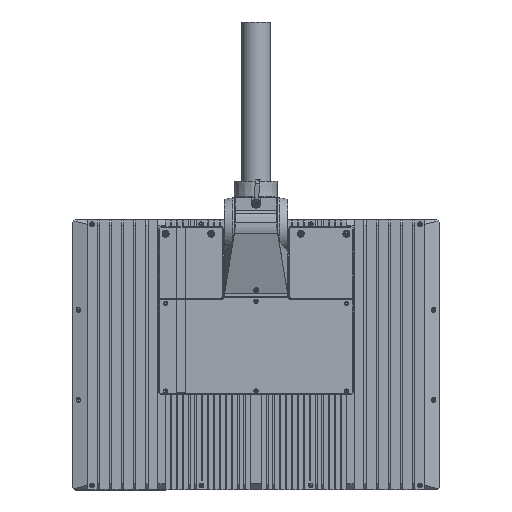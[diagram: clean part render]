
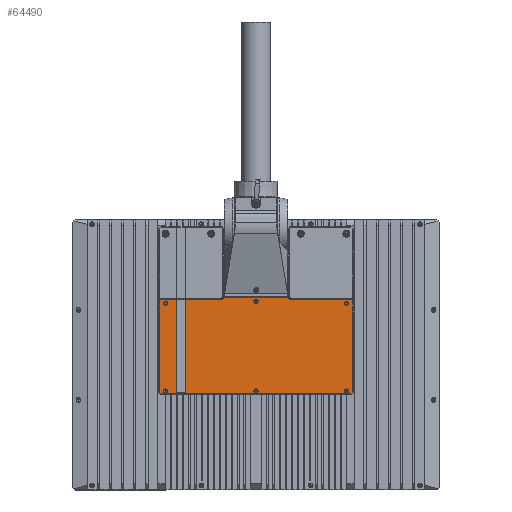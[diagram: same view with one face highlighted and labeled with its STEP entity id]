
A CAD part, top view. The second image highlights one B-rep face of the part: STEP entity #64490.
In plain terms, the highlighted planar face has unit normal (0, 0, 1).
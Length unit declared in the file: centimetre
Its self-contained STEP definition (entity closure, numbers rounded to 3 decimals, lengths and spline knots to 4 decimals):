
#45273=CARTESIAN_POINT('',(-11.75,9.13,12.79));
#45274=VERTEX_POINT('',#45273);
#45275=CARTESIAN_POINT('',(-11.75,-6.15,12.79));
#45276=VERTEX_POINT('',#45275);
#45277=CARTESIAN_POINT('',(-11.75,9.13,12.79));
#45278=DIRECTION('',(0.,-1.0,0.));
#45279=VECTOR('',#45278,15.28);
#45280=LINE('',#45277,#45279);
#45281=EDGE_CURVE('',#45274,#45276,#45280,.T.);
#45413=CARTESIAN_POINT('',(-14.7,8.55,12.79));
#45414=VERTEX_POINT('',#45413);
#45415=CARTESIAN_POINT('',(-15.05,8.55,12.79));
#45416=DIRECTION('',(0.,0.,-1.0));
#45417=DIRECTION('',(1.0,0.,0.));
#45418=AXIS2_PLACEMENT_3D('',#45415,#45416,#45417);
#45419=CIRCLE('',#45418,0.35);
#45420=EDGE_CURVE('',#45414,#45414,#45419,.T.);
#64152=CARTESIAN_POINT('',(0.35,8.9,12.79));
#64153=VERTEX_POINT('',#64152);
#64154=CARTESIAN_POINT('',(0.,8.9,12.79));
#64155=DIRECTION('',(0.,0.,-1.0));
#64156=DIRECTION('',(1.0,0.,0.));
#64157=AXIS2_PLACEMENT_3D('',#64154,#64155,#64156);
#64158=CIRCLE('',#64157,0.35);
#64159=EDGE_CURVE('',#64153,#64153,#64158,.T.);
#64180=CARTESIAN_POINT('',(-14.7,-6.05,12.79));
#64181=VERTEX_POINT('',#64180);
#64182=CARTESIAN_POINT('',(-15.05,-6.05,12.79));
#64183=DIRECTION('',(0.,0.,-1.0));
#64184=DIRECTION('',(1.0,0.,0.));
#64185=AXIS2_PLACEMENT_3D('',#64182,#64183,#64184);
#64186=CIRCLE('',#64185,0.35);
#64187=EDGE_CURVE('',#64181,#64181,#64186,.T.);
#64208=CARTESIAN_POINT('',(0.35,-6.05,12.79));
#64209=VERTEX_POINT('',#64208);
#64210=CARTESIAN_POINT('',(0.,-6.05,12.79));
#64211=DIRECTION('',(0.,0.,-1.0));
#64212=DIRECTION('',(1.0,0.,0.));
#64213=AXIS2_PLACEMENT_3D('',#64210,#64211,#64212);
#64214=CIRCLE('',#64213,0.35);
#64215=EDGE_CURVE('',#64209,#64209,#64214,.T.);
#64269=CARTESIAN_POINT('',(-16.05,9.13,12.79));
#64270=VERTEX_POINT('',#64269);
#64291=CARTESIAN_POINT('',(-13.25,9.13,12.79));
#64292=VERTEX_POINT('',#64291);
#64301=CARTESIAN_POINT('',(-16.05,9.13,12.79));
#64302=DIRECTION('',(1.0,0.,0.0));
#64303=VECTOR('',#64302,2.8);
#64304=LINE('',#64301,#64303);
#64305=EDGE_CURVE('',#64270,#64292,#64304,.T.);
#64325=CARTESIAN_POINT('',(-13.25,-6.15,12.79));
#64326=VERTEX_POINT('',#64325);
#64327=CARTESIAN_POINT('',(-13.25,-6.15,12.79));
#64328=DIRECTION('',(0.,1.0,0.));
#64329=VECTOR('',#64328,15.28);
#64330=LINE('',#64327,#64329);
#64331=EDGE_CURVE('',#64326,#64292,#64330,.T.);
#64342=CARTESIAN_POINT('',(0.,1.25,12.79));
#64343=DIRECTION('',(0.0,0.0,-1.0));
#64344=DIRECTION('',(-1.0,0.,0.0));
#64345=AXIS2_PLACEMENT_3D('',#64342,#64343,#64344);
#64346=PLANE('',#64345);
#64347=CARTESIAN_POINT('',(-5.9538,9.13,12.79));
#64348=VERTEX_POINT('',#64347);
#64349=CARTESIAN_POINT('',(-11.75,9.13,12.79));
#64350=DIRECTION('',(1.0,0.,0.0));
#64351=VECTOR('',#64350,5.7962);
#64352=LINE('',#64349,#64351);
#64353=EDGE_CURVE('',#45274,#64348,#64352,.T.);
#64354=ORIENTED_EDGE('',*,*,#64353,.F.);
#64355=ORIENTED_EDGE('',*,*,#45281,.T.);
#64356=CARTESIAN_POINT('',(-11.85,-6.25,12.79));
#64357=VERTEX_POINT('',#64356);
#64358=CARTESIAN_POINT('',(-11.85,-6.15,12.79));
#64359=DIRECTION('',(0.,0.,-1.0));
#64360=DIRECTION('',(0.,1.0,0.));
#64361=AXIS2_PLACEMENT_3D('',#64358,#64359,#64360);
#64362=CIRCLE('',#64361,0.1);
#64363=EDGE_CURVE('',#45276,#64357,#64362,.T.);
#64364=ORIENTED_EDGE('',*,*,#64363,.T.);
#64365=CARTESIAN_POINT('',(-13.15,-6.25,12.79));
#64366=VERTEX_POINT('',#64365);
#64367=CARTESIAN_POINT('',(-11.85,-6.25,12.79));
#64368=DIRECTION('',(-1.0,0.,0.0));
#64369=VECTOR('',#64368,1.3);
#64370=LINE('',#64367,#64369);
#64371=EDGE_CURVE('',#64357,#64366,#64370,.T.);
#64372=ORIENTED_EDGE('',*,*,#64371,.T.);
#64373=CARTESIAN_POINT('',(-13.15,-6.15,12.79));
#64374=DIRECTION('',(0.,0.,-1.0));
#64375=DIRECTION('',(1.0,0.,0.));
#64376=AXIS2_PLACEMENT_3D('',#64373,#64374,#64375);
#64377=CIRCLE('',#64376,0.1);
#64378=EDGE_CURVE('',#64366,#64326,#64377,.T.);
#64379=ORIENTED_EDGE('',*,*,#64378,.T.);
#64380=ORIENTED_EDGE('',*,*,#64331,.T.);
#64381=ORIENTED_EDGE('',*,*,#64305,.F.);
#64382=CARTESIAN_POINT('',(-16.05,-6.1872,12.79));
#64383=VERTEX_POINT('',#64382);
#64384=CARTESIAN_POINT('',(-16.05,-6.1872,12.79));
#64385=DIRECTION('',(0.,1.0,0.));
#64386=VECTOR('',#64385,15.3172);
#64387=LINE('',#64384,#64386);
#64388=EDGE_CURVE('',#64383,#64270,#64387,.T.);
#64389=ORIENTED_EDGE('',*,*,#64388,.F.);
#64390=CARTESIAN_POINT('',(-15.7872,-6.45,12.79));
#64391=VERTEX_POINT('',#64390);
#64392=CARTESIAN_POINT('',(-15.7872,-6.45,12.79));
#64393=DIRECTION('',(-0.707,0.707,0.0));
#64394=VECTOR('',#64393,0.3717);
#64395=LINE('',#64392,#64394);
#64396=EDGE_CURVE('',#64391,#64383,#64395,.T.);
#64397=ORIENTED_EDGE('',*,*,#64396,.F.);
#64398=CARTESIAN_POINT('',(15.7872,-6.45,12.79));
#64399=VERTEX_POINT('',#64398);
#64400=CARTESIAN_POINT('',(15.7872,-6.45,12.79));
#64401=DIRECTION('',(-1.0,0.,0.0));
#64402=VECTOR('',#64401,31.5743);
#64403=LINE('',#64400,#64402);
#64404=EDGE_CURVE('',#64399,#64391,#64403,.T.);
#64405=ORIENTED_EDGE('',*,*,#64404,.F.);
#64406=CARTESIAN_POINT('',(16.05,-6.1872,12.79));
#64407=VERTEX_POINT('',#64406);
#64408=CARTESIAN_POINT('',(16.05,-6.1872,12.79));
#64409=DIRECTION('',(-0.707,-0.707,0.0));
#64410=VECTOR('',#64409,0.3717);
#64411=LINE('',#64408,#64410);
#64412=EDGE_CURVE('',#64407,#64399,#64411,.T.);
#64413=ORIENTED_EDGE('',*,*,#64412,.F.);
#64414=CARTESIAN_POINT('',(16.05,9.13,12.79));
#64415=VERTEX_POINT('',#64414);
#64416=CARTESIAN_POINT('',(16.05,9.13,12.79));
#64417=DIRECTION('',(0.,-1.0,0.));
#64418=VECTOR('',#64417,15.3172);
#64419=LINE('',#64416,#64418);
#64420=EDGE_CURVE('',#64415,#64407,#64419,.T.);
#64421=ORIENTED_EDGE('',*,*,#64420,.F.);
#64422=CARTESIAN_POINT('',(5.9538,9.13,12.79));
#64423=VERTEX_POINT('',#64422);
#64424=CARTESIAN_POINT('',(5.9538,9.13,12.79));
#64425=DIRECTION('',(1.0,0.,0.0));
#64426=VECTOR('',#64425,10.0962);
#64427=LINE('',#64424,#64426);
#64428=EDGE_CURVE('',#64423,#64415,#64427,.T.);
#64429=ORIENTED_EDGE('',*,*,#64428,.F.);
#64430=CARTESIAN_POINT('',(5.2786,9.6,12.79));
#64431=VERTEX_POINT('',#64430);
#64432=CARTESIAN_POINT('',(5.9538,9.85,12.79));
#64433=DIRECTION('',(0.,0.,1.0));
#64434=DIRECTION('',(-0.934,-0.357,0.));
#64435=AXIS2_PLACEMENT_3D('',#64432,#64433,#64434);
#64436=CIRCLE('',#64435,0.72);
#64437=EDGE_CURVE('',#64431,#64423,#64436,.T.);
#64438=ORIENTED_EDGE('',*,*,#64437,.F.);
#64439=CARTESIAN_POINT('',(-5.2786,9.6,12.79));
#64440=VERTEX_POINT('',#64439);
#64441=CARTESIAN_POINT('',(5.2786,9.6,12.79));
#64442=DIRECTION('',(-1.0,0.,0.0));
#64443=VECTOR('',#64442,10.5573);
#64444=LINE('',#64441,#64443);
#64445=EDGE_CURVE('',#64431,#64440,#64444,.T.);
#64446=ORIENTED_EDGE('',*,*,#64445,.T.);
#64447=CARTESIAN_POINT('',(-5.9538,9.85,12.79));
#64448=DIRECTION('',(0.,0.,1.0));
#64449=DIRECTION('',(0.934,-0.357,0.));
#64450=AXIS2_PLACEMENT_3D('',#64447,#64448,#64449);
#64451=CIRCLE('',#64450,0.72);
#64452=EDGE_CURVE('',#64348,#64440,#64451,.T.);
#64453=ORIENTED_EDGE('',*,*,#64452,.F.);
#64454=EDGE_LOOP('',(#64354,#64355,#64364,#64372,#64379,#64380,#64381,#64389,#64397,#64405,#64413,#64421,#64429,#64438,#64446,#64453));
#64455=FACE_OUTER_BOUND('',#64454,.T.);
#64456=CARTESIAN_POINT('',(14.7,8.55,12.79));
#64457=VERTEX_POINT('',#64456);
#64458=CARTESIAN_POINT('',(15.05,8.55,12.79));
#64459=DIRECTION('',(0.,0.,-1.0));
#64460=DIRECTION('',(-1.0,0.,0.));
#64461=AXIS2_PLACEMENT_3D('',#64458,#64459,#64460);
#64462=CIRCLE('',#64461,0.35);
#64463=EDGE_CURVE('',#64457,#64457,#64462,.T.);
#64464=ORIENTED_EDGE('',*,*,#64463,.T.);
#64465=EDGE_LOOP('',(#64464));
#64466=FACE_BOUND('',#64465,.T.);
#64467=CARTESIAN_POINT('',(15.4,-6.05,12.79));
#64468=VERTEX_POINT('',#64467);
#64469=CARTESIAN_POINT('',(15.05,-6.05,12.79));
#64470=DIRECTION('',(0.,0.,-1.0));
#64471=DIRECTION('',(-1.0,0.,0.));
#64472=AXIS2_PLACEMENT_3D('',#64469,#64470,#64471);
#64473=CIRCLE('',#64472,0.35);
#64474=EDGE_CURVE('',#64468,#64468,#64473,.T.);
#64475=ORIENTED_EDGE('',*,*,#64474,.T.);
#64476=EDGE_LOOP('',(#64475));
#64477=FACE_BOUND('',#64476,.T.);
#64478=ORIENTED_EDGE('',*,*,#64159,.T.);
#64479=EDGE_LOOP('',(#64478));
#64480=FACE_BOUND('',#64479,.T.);
#64481=ORIENTED_EDGE('',*,*,#64187,.T.);
#64482=EDGE_LOOP('',(#64481));
#64483=FACE_BOUND('',#64482,.T.);
#64484=ORIENTED_EDGE('',*,*,#64215,.T.);
#64485=EDGE_LOOP('',(#64484));
#64486=FACE_BOUND('',#64485,.T.);
#64487=ORIENTED_EDGE('',*,*,#45420,.T.);
#64488=EDGE_LOOP('',(#64487));
#64489=FACE_BOUND('',#64488,.T.);
#64490=ADVANCED_FACE('',(#64455,#64466,#64477,#64480,#64483,#64486,#64489),#64346,.F.);
